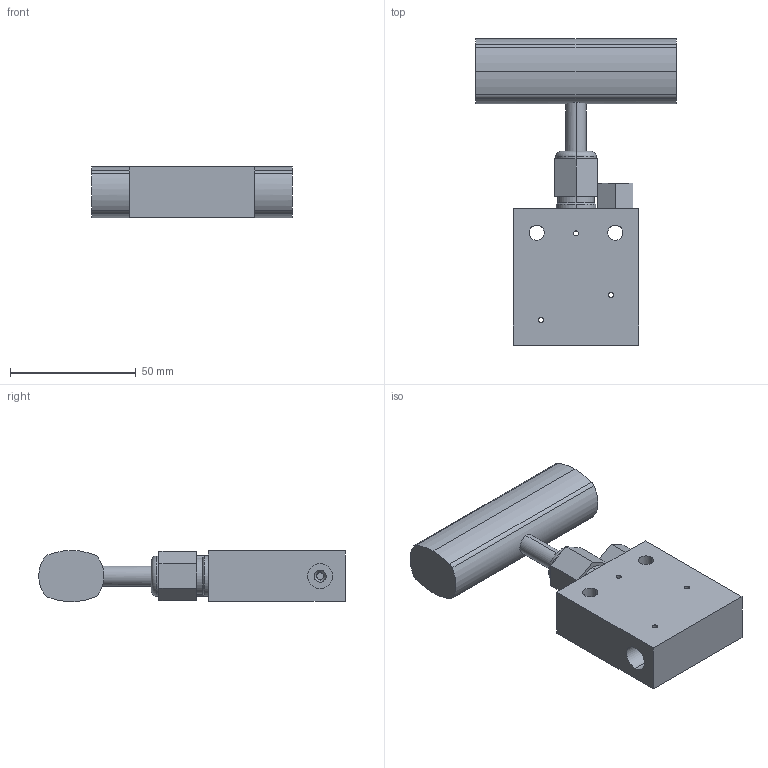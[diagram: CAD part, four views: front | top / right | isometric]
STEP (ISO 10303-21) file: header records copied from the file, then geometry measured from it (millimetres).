
FILE_DESCRIPTION (( 'STEP AP203' ), '1' );
FILE_NAME ('HRS-NV20VS04-S.STEP', '2024-01-15T04:49:22', ( '' ), ( '' ), 'SwSTEP 2.0', 'SolidWorks 2023', '' );
FILE_SCHEMA (( 'CONFIG_CONTROL_DESIGN' ));
Length unit declared in the file: millimetre
Products named in the file (1): HRS-NV20VS04-S
Bounding box: 80 x 122.05 x 20.33 mm (x, y, z)
Volume: 94783.1 mm3; surface area: 20797.5 mm2
Topology: 1 solids, 1 shells, 81 faces, 197 edges, 126 vertices
Faces by surface type: cylinder 43, plane 30, cone 6, torus 2
Entity records: 2784 total; most frequent: CARTESIAN_POINT 723, DIRECTION 429, ORIENTED_EDGE 394, EDGE_CURVE 197, AXIS2_PLACEMENT_3D 164, VERTEX_POINT 126, EDGE_LOOP 105, VECTOR 101
